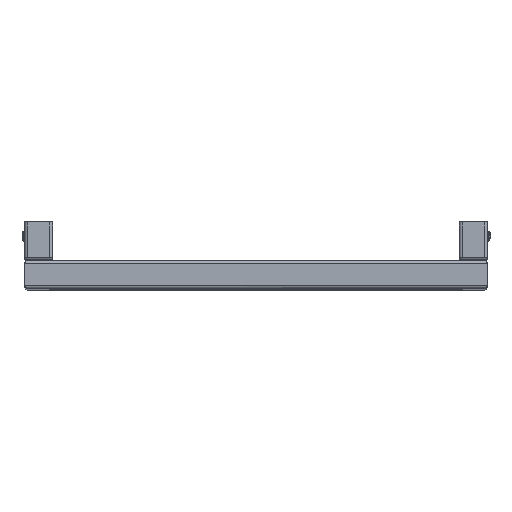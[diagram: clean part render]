
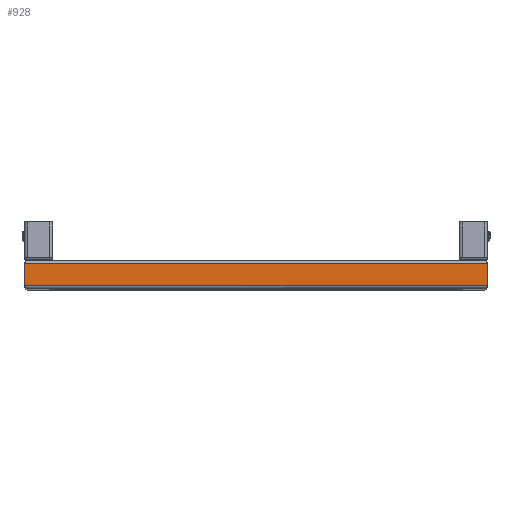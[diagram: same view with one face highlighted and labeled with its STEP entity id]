
A CAD part, top view. The second image highlights one B-rep face of the part: STEP entity #928.
In plain terms, the highlighted planar face has unit normal (0, 0, 1).
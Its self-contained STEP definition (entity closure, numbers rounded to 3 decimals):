
#679=CARTESIAN_POINT('',(250.,27.0,1070.0));
#680=VERTEX_POINT('',#679);
#710=CARTESIAN_POINT('',(-250.,27.0,1070.0));
#711=VERTEX_POINT('',#710);
#719=CARTESIAN_POINT('',(-250.,27.0,1070.0));
#720=DIRECTION('',(1.0,0.0,0.0));
#721=VECTOR('',#720,500.);
#722=LINE('',#719,#721);
#723=EDGE_CURVE('',#711,#680,#722,.T.);
#770=CARTESIAN_POINT('',(250.,3.0,1070.0));
#771=VERTEX_POINT('',#770);
#772=CARTESIAN_POINT('',(250.,3.0,1070.0));
#773=DIRECTION('',(0.0,1.0,0.0));
#774=VECTOR('',#773,24.0);
#775=LINE('',#772,#774);
#776=EDGE_CURVE('',#771,#680,#775,.T.);
#793=CARTESIAN_POINT('',(-250.,3.0,1070.0));
#794=VERTEX_POINT('',#793);
#795=CARTESIAN_POINT('',(250.,3.0,1070.0));
#796=DIRECTION('',(-1.0,0.0,0.0));
#797=VECTOR('',#796,500.);
#798=LINE('',#795,#797);
#799=EDGE_CURVE('',#771,#794,#798,.T.);
#908=CARTESIAN_POINT('',(-250.,3.0,1070.0));
#909=DIRECTION('',(0.0,1.0,0.0));
#910=VECTOR('',#909,24.0);
#911=LINE('',#908,#910);
#912=EDGE_CURVE('',#794,#711,#911,.T.);
#917=CARTESIAN_POINT('',(250.,0.0,1070.0));
#918=DIRECTION('',(0.0,0.0,1.0));
#919=DIRECTION('',(1.0,0.0,0.0));
#920=AXIS2_PLACEMENT_3D('',#917,#918,#919);
#921=PLANE('',#920);
#922=ORIENTED_EDGE('',*,*,#723,.F.);
#923=ORIENTED_EDGE('',*,*,#912,.F.);
#924=ORIENTED_EDGE('',*,*,#799,.F.);
#925=ORIENTED_EDGE('',*,*,#776,.T.);
#926=EDGE_LOOP('',(#922,#923,#924,#925));
#927=FACE_OUTER_BOUND('',#926,.T.);
#928=ADVANCED_FACE('',(#927),#921,.T.);
